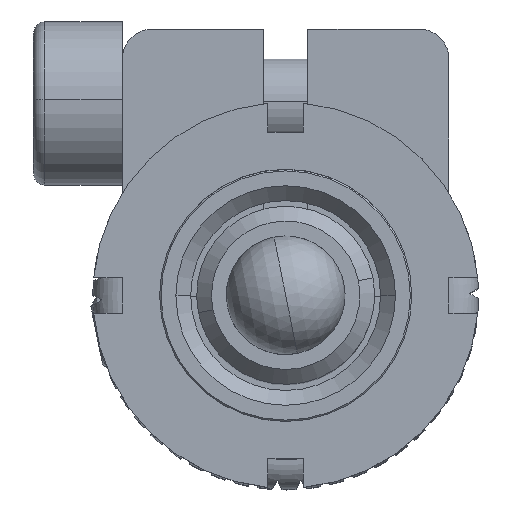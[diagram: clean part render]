
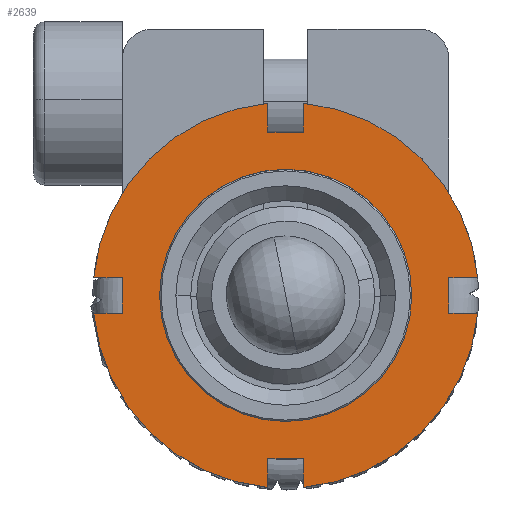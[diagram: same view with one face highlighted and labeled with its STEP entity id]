
A CAD part, top view. The second image highlights one B-rep face of the part: STEP entity #2639.
In plain terms, the highlighted planar face has unit normal (0, 0, 1).
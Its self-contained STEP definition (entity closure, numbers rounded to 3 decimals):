
#5 = ORIENTED_EDGE ( 'NONE', *, *, #5332, .F. ) ;
#73 = VERTEX_POINT ( 'NONE', #11427 ) ;
#178 = DIRECTION ( 'NONE',  ( 0., -1., 0. ) ) ;
#290 = VERTEX_POINT ( 'NONE', #9176 ) ;
#294 = ORIENTED_EDGE ( 'NONE', *, *, #1046, .F. ) ;
#295 = CIRCLE ( 'NONE', #4323, 4.25 ) ;
#427 = CARTESIAN_POINT ( 'NONE',  ( 0.6, 7.5, 22. ) ) ;
#466 = CARTESIAN_POINT ( 'NONE',  ( 5.5, 0.6, 22. ) ) ;
#518 = EDGE_LOOP ( 'NONE', ( #5, #5565, #4890, #10939, #4999, #6316, #2744, #6180, #2084, #3836, #8131, #10761, #3827, #294, #4308, #1112 ) ) ;
#568 = FACE_BOUND ( 'NONE', #6508, .T. ) ;
#689 = CARTESIAN_POINT ( 'NONE',  ( -4.25, 0., 22. ) ) ;
#701 = CARTESIAN_POINT ( 'NONE',  ( 0.6, 6.472, 22. ) ) ;
#837 = EDGE_CURVE ( 'NONE', #1690, #9853, #7765, .T. ) ;
#892 = VECTOR ( 'NONE', #3809, 1000. ) ;
#955 = LINE ( 'NONE', #9013, #7506 ) ;
#1046 = EDGE_CURVE ( 'NONE', #3937, #2712, #7753, .T. ) ;
#1084 = EDGE_CURVE ( 'NONE', #11047, #1513, #9517, .T. ) ;
#1112 = ORIENTED_EDGE ( 'NONE', *, *, #837, .T. ) ;
#1115 = AXIS2_PLACEMENT_3D ( 'NONE', #7651, #1238, #6723 ) ;
#1238 = DIRECTION ( 'NONE',  ( 0., 0., 1. ) ) ;
#1297 = LINE ( 'NONE', #427, #9347 ) ;
#1351 = CIRCLE ( 'NONE', #4893, 4.25 ) ;
#1499 = EDGE_CURVE ( 'NONE', #12024, #4740, #5682, .T. ) ;
#1513 = VERTEX_POINT ( 'NONE', #2754 ) ;
#1532 = EDGE_CURVE ( 'NONE', #7084, #73, #295, .T. ) ;
#1690 = VERTEX_POINT ( 'NONE', #8540 ) ;
#1847 = EDGE_CURVE ( 'NONE', #5835, #5702, #9790, .T. ) ;
#1852 = DIRECTION ( 'NONE',  ( 1., 0., 0. ) ) ;
#1885 = DIRECTION ( 'NONE',  ( 0., 0., 1. ) ) ;
#1964 = CARTESIAN_POINT ( 'NONE',  ( -0.6, -7.5, 22. ) ) ;
#2056 = CARTESIAN_POINT ( 'NONE',  ( -0.6, 7.5, 22. ) ) ;
#2084 = ORIENTED_EDGE ( 'NONE', *, *, #2217, .F. ) ;
#2151 = CARTESIAN_POINT ( 'NONE',  ( -5.5, -0.6, 22. ) ) ;
#2217 = EDGE_CURVE ( 'NONE', #6750, #5702, #1297, .T. ) ;
#2260 = LINE ( 'NONE', #10537, #6900 ) ;
#2300 = DIRECTION ( 'NONE',  ( 1., 0., 0. ) ) ;
#2363 = EDGE_CURVE ( 'NONE', #2684, #5498, #9060, .T. ) ;
#2623 = DIRECTION ( 'NONE',  ( 0., 0., 1. ) ) ;
#2639 = ADVANCED_FACE ( 'NONE', ( #5513, #568 ), #3065, .T. ) ;
#2676 = CARTESIAN_POINT ( 'NONE',  ( -7.5, -0.6, 22. ) ) ;
#2684 = VERTEX_POINT ( 'NONE', #466 ) ;
#2712 = VERTEX_POINT ( 'NONE', #8760 ) ;
#2744 = ORIENTED_EDGE ( 'NONE', *, *, #9856, .F. ) ;
#2754 = CARTESIAN_POINT ( 'NONE',  ( 0.6, -5.5, 22. ) ) ;
#2835 = DIRECTION ( 'NONE',  ( 0., 0., 1. ) ) ;
#2913 = CARTESIAN_POINT ( 'NONE',  ( 0., 0., 22. ) ) ;
#2986 = EDGE_CURVE ( 'NONE', #11047, #5382, #10793, .T. ) ;
#3005 = DIRECTION ( 'NONE',  ( 0., -1., 0. ) ) ;
#3065 = PLANE ( 'NONE',  #1115 ) ;
#3216 = AXIS2_PLACEMENT_3D ( 'NONE', #3673, #8269, #1852 ) ;
#3509 = LINE ( 'NONE', #6868, #7004 ) ;
#3534 = CARTESIAN_POINT ( 'NONE',  ( 5.5, 0.6, 22. ) ) ;
#3588 = CARTESIAN_POINT ( 'NONE',  ( 7.5, 0.6, 22. ) ) ;
#3673 = CARTESIAN_POINT ( 'NONE',  ( 0., 0., 22. ) ) ;
#3807 = CARTESIAN_POINT ( 'NONE',  ( 6.472, 0.6, 22. ) ) ;
#3809 = DIRECTION ( 'NONE',  ( 0., 1., 0. ) ) ;
#3827 = ORIENTED_EDGE ( 'NONE', *, *, #4109, .F. ) ;
#3836 = ORIENTED_EDGE ( 'NONE', *, *, #8838, .F. ) ;
#3876 = VECTOR ( 'NONE', #10371, 1000. ) ;
#3937 = VERTEX_POINT ( 'NONE', #5501 ) ;
#4109 = EDGE_CURVE ( 'NONE', #2712, #5939, #3509, .T. ) ;
#4186 = CARTESIAN_POINT ( 'NONE',  ( -6.472, 0.6, 22. ) ) ;
#4308 = ORIENTED_EDGE ( 'NONE', *, *, #7274, .F. ) ;
#4323 = AXIS2_PLACEMENT_3D ( 'NONE', #7392, #1885, #11988 ) ;
#4451 = LINE ( 'NONE', #7081, #11627 ) ;
#4453 = CARTESIAN_POINT ( 'NONE',  ( 0., 0., 22. ) ) ;
#4487 = DIRECTION ( 'NONE',  ( -1., 0., 0. ) ) ;
#4740 = VERTEX_POINT ( 'NONE', #7036 ) ;
#4816 = VECTOR ( 'NONE', #178, 1000. ) ;
#4877 = CIRCLE ( 'NONE', #10055, 6.5 ) ;
#4890 = ORIENTED_EDGE ( 'NONE', *, *, #1084, .F. ) ;
#4893 = AXIS2_PLACEMENT_3D ( 'NONE', #6063, #6185, #2300 ) ;
#4999 = ORIENTED_EDGE ( 'NONE', *, *, #11691, .F. ) ;
#5332 = EDGE_CURVE ( 'NONE', #290, #9853, #10647, .T. ) ;
#5382 = VERTEX_POINT ( 'NONE', #5962 ) ;
#5498 = VERTEX_POINT ( 'NONE', #6124 ) ;
#5501 = CARTESIAN_POINT ( 'NONE',  ( -5.5, -0.6, 22. ) ) ;
#5513 = FACE_OUTER_BOUND ( 'NONE', #518, .T. ) ;
#5565 = ORIENTED_EDGE ( 'NONE', *, *, #8407, .F. ) ;
#5566 = VECTOR ( 'NONE', #4487, 1000. ) ;
#5682 = LINE ( 'NONE', #2056, #4816 ) ;
#5702 = VERTEX_POINT ( 'NONE', #701 ) ;
#5835 = VERTEX_POINT ( 'NONE', #3807 ) ;
#5931 = DIRECTION ( 'NONE',  ( -1., 0., 0. ) ) ;
#5939 = VERTEX_POINT ( 'NONE', #4186 ) ;
#5962 = CARTESIAN_POINT ( 'NONE',  ( 6.472, -0.6, 22. ) ) ;
#6063 = CARTESIAN_POINT ( 'NONE',  ( 0., 0., 22. ) ) ;
#6072 = DIRECTION ( 'NONE',  ( 0., 1., 0. ) ) ;
#6124 = CARTESIAN_POINT ( 'NONE',  ( 5.5, -0.6, 22. ) ) ;
#6180 = ORIENTED_EDGE ( 'NONE', *, *, #1847, .T. ) ;
#6185 = DIRECTION ( 'NONE',  ( 0., 0., 1. ) ) ;
#6206 = DIRECTION ( 'NONE',  ( 1., 0., 0. ) ) ;
#6316 = ORIENTED_EDGE ( 'NONE', *, *, #2363, .F. ) ;
#6339 = LINE ( 'NONE', #2676, #3876 ) ;
#6508 = EDGE_LOOP ( 'NONE', ( #11935, #6734 ) ) ;
#6723 = DIRECTION ( 'NONE',  ( 1., 0., 0. ) ) ;
#6734 = ORIENTED_EDGE ( 'NONE', *, *, #1532, .F. ) ;
#6750 = VERTEX_POINT ( 'NONE', #12133 ) ;
#6829 = DIRECTION ( 'NONE',  ( 1., 0., 0. ) ) ;
#6868 = CARTESIAN_POINT ( 'NONE',  ( -7.5, 0.6, 22. ) ) ;
#6900 = VECTOR ( 'NONE', #6829, 1000. ) ;
#7004 = VECTOR ( 'NONE', #5931, 1000. ) ;
#7036 = CARTESIAN_POINT ( 'NONE',  ( -0.6, 5.5, 22. ) ) ;
#7081 = CARTESIAN_POINT ( 'NONE',  ( -0.6, 5.5, 22. ) ) ;
#7084 = VERTEX_POINT ( 'NONE', #689 ) ;
#7161 = VECTOR ( 'NONE', #11346, 1000. ) ;
#7274 = EDGE_CURVE ( 'NONE', #1690, #3937, #6339, .T. ) ;
#7392 = CARTESIAN_POINT ( 'NONE',  ( 0., 0., 22. ) ) ;
#7506 = VECTOR ( 'NONE', #10845, 1000. ) ;
#7651 = CARTESIAN_POINT ( 'NONE',  ( 0., 0., 22. ) ) ;
#7753 = LINE ( 'NONE', #2151, #7161 ) ;
#7765 = CIRCLE ( 'NONE', #11932, 6.5 ) ;
#8013 = EDGE_CURVE ( 'NONE', #12024, #5939, #4877, .T. ) ;
#8131 = ORIENTED_EDGE ( 'NONE', *, *, #1499, .F. ) ;
#8269 = DIRECTION ( 'NONE',  ( 0., 0., 1. ) ) ;
#8407 = EDGE_CURVE ( 'NONE', #1513, #290, #955, .T. ) ;
#8540 = CARTESIAN_POINT ( 'NONE',  ( -6.472, -0.6, 22. ) ) ;
#8667 = LINE ( 'NONE', #3588, #5566 ) ;
#8760 = CARTESIAN_POINT ( 'NONE',  ( -5.5, 0.6, 22. ) ) ;
#8838 = EDGE_CURVE ( 'NONE', #4740, #6750, #4451, .T. ) ;
#9013 = CARTESIAN_POINT ( 'NONE',  ( 0.6, -5.5, 22. ) ) ;
#9060 = LINE ( 'NONE', #3534, #9776 ) ;
#9176 = CARTESIAN_POINT ( 'NONE',  ( -0.6, -5.5, 22. ) ) ;
#9347 = VECTOR ( 'NONE', #6072, 1000. ) ;
#9517 = LINE ( 'NONE', #11306, #892 ) ;
#9746 = EDGE_CURVE ( 'NONE', #73, #7084, #1351, .T. ) ;
#9776 = VECTOR ( 'NONE', #10983, 1000. ) ;
#9790 = CIRCLE ( 'NONE', #11618, 6.5 ) ;
#9806 = CARTESIAN_POINT ( 'NONE',  ( -0.6, -6.472, 22. ) ) ;
#9853 = VERTEX_POINT ( 'NONE', #9806 ) ;
#9856 = EDGE_CURVE ( 'NONE', #5835, #2684, #8667, .T. ) ;
#9883 = DIRECTION ( 'NONE',  ( 1., 0., 0. ) ) ;
#10055 = AXIS2_PLACEMENT_3D ( 'NONE', #2913, #2835, #10299 ) ;
#10083 = DIRECTION ( 'NONE',  ( 1., 0., 0. ) ) ;
#10299 = DIRECTION ( 'NONE',  ( 1., 0., 0. ) ) ;
#10305 = CARTESIAN_POINT ( 'NONE',  ( 0.6, -6.472, 22. ) ) ;
#10371 = DIRECTION ( 'NONE',  ( 1., 0., 0. ) ) ;
#10537 = CARTESIAN_POINT ( 'NONE',  ( 7.5, -0.6, 22. ) ) ;
#10647 = LINE ( 'NONE', #1964, #12124 ) ;
#10703 = DIRECTION ( 'NONE',  ( 0., 0., 1. ) ) ;
#10761 = ORIENTED_EDGE ( 'NONE', *, *, #8013, .T. ) ;
#10793 = CIRCLE ( 'NONE', #3216, 6.5 ) ;
#10824 = CARTESIAN_POINT ( 'NONE',  ( 0., 0., 22. ) ) ;
#10845 = DIRECTION ( 'NONE',  ( -1., 0., 0. ) ) ;
#10939 = ORIENTED_EDGE ( 'NONE', *, *, #2986, .T. ) ;
#10983 = DIRECTION ( 'NONE',  ( 0., -1., 0. ) ) ;
#11047 = VERTEX_POINT ( 'NONE', #10305 ) ;
#11115 = CARTESIAN_POINT ( 'NONE',  ( -0.6, 6.472, 22. ) ) ;
#11306 = CARTESIAN_POINT ( 'NONE',  ( 0.6, -7.5, 22. ) ) ;
#11346 = DIRECTION ( 'NONE',  ( 0., 1., 0. ) ) ;
#11427 = CARTESIAN_POINT ( 'NONE',  ( 4.25, 0., 22. ) ) ;
#11618 = AXIS2_PLACEMENT_3D ( 'NONE', #10824, #10703, #9883 ) ;
#11627 = VECTOR ( 'NONE', #6206, 1000. ) ;
#11691 = EDGE_CURVE ( 'NONE', #5498, #5382, #2260, .T. ) ;
#11932 = AXIS2_PLACEMENT_3D ( 'NONE', #4453, #2623, #10083 ) ;
#11935 = ORIENTED_EDGE ( 'NONE', *, *, #9746, .F. ) ;
#11988 = DIRECTION ( 'NONE',  ( 1., 0., 0. ) ) ;
#12024 = VERTEX_POINT ( 'NONE', #11115 ) ;
#12124 = VECTOR ( 'NONE', #3005, 1000. ) ;
#12133 = CARTESIAN_POINT ( 'NONE',  ( 0.6, 5.5, 22. ) ) ;
